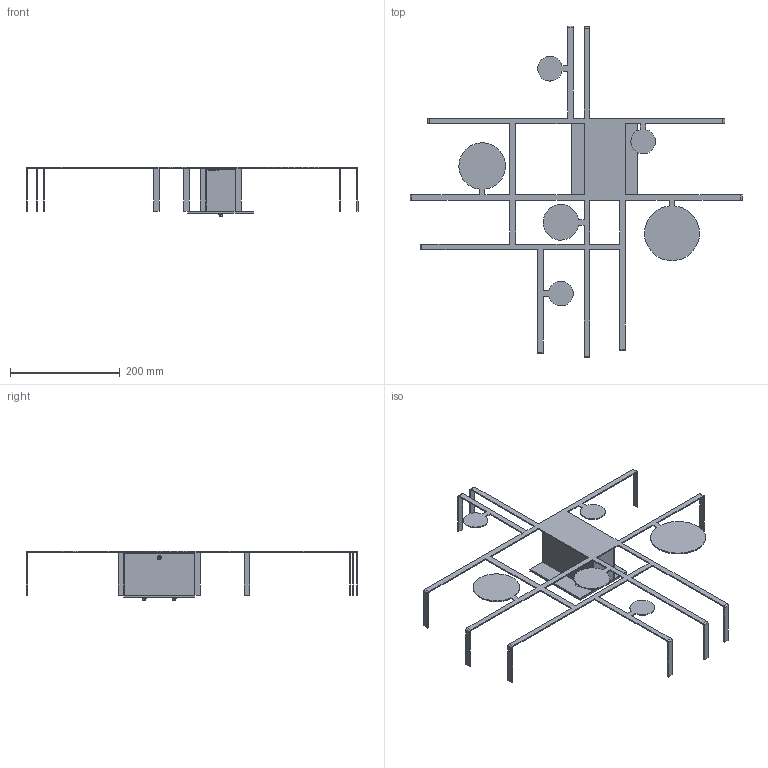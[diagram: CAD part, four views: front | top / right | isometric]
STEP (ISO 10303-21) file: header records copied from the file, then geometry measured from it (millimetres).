
FILE_DESCRIPTION (( 'STEP AP203' ), '1' );
FILE_NAME ('UAMANIFESTOXXXX-PER 3D.STEP', '2022-11-04T17:30:40', ( '' ), ( '' ), 'SwSTEP 2.0', 'SolidWorks 2022', '' );
FILE_SCHEMA (( 'CONFIG_CONTROL_DESIGN' ));
Length unit declared in the file: millimetre
Products named in the file (7): WSMCVIF-04A10-0141_WSMCVIF-04A10-0141; WSCM2C0117-0100-00; UAMANIFESTOXXXX-PER 3D; WSMCROA04-----0141_WSMCROB04-----0141; WSCM2C0118-0100-00-I_Default<A macchina>; WSCM2C0122-0100-00; WSCM2C0123-0100-00
Assembly tree (8 placements, depth 2):
  UAMANIFESTOXXXX-PER 3D
    WSMCVIF-04A10-0141_WSMCVIF-04A10-0141  x2
    WSCM2C0117-0100-00
    WSCM2C0118-0100-00-I_Default<A macchina>
    WSCM2C0123-0100-00
    WSCM2C0122-0100-00
    WSMCROA04-----0141_WSMCROB04-----0141  x2
Bounding box: 605.25 x 604.58 x 90.5 mm (x, y, z)
Volume: 247321.7 mm3; surface area: 286851.6 mm2
Topology: 14 solids, 14 shells, 515 faces, 1297 edges, 772 vertices
Faces by surface type: plane 282, cylinder 129, bspline 52, torus 32, cone 16, sphere 4
Entity records: 14104 total; most frequent: CARTESIAN_POINT 3077, DIRECTION 2147, ORIENTED_EDGE 2094, EDGE_CURVE 1047, AXIS2_PLACEMENT_3D 753, LINE 641, VECTOR 641, VERTEX_POINT 641
